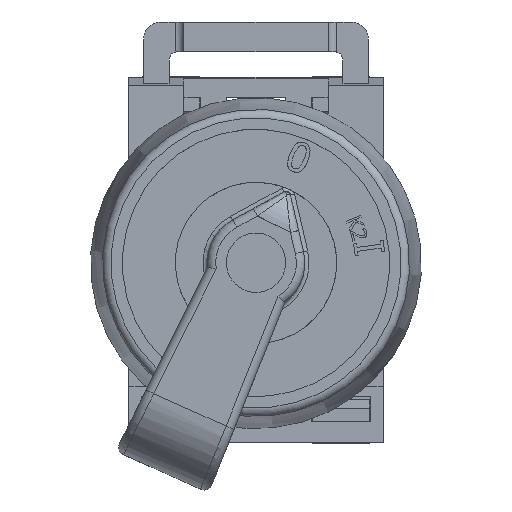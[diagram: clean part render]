
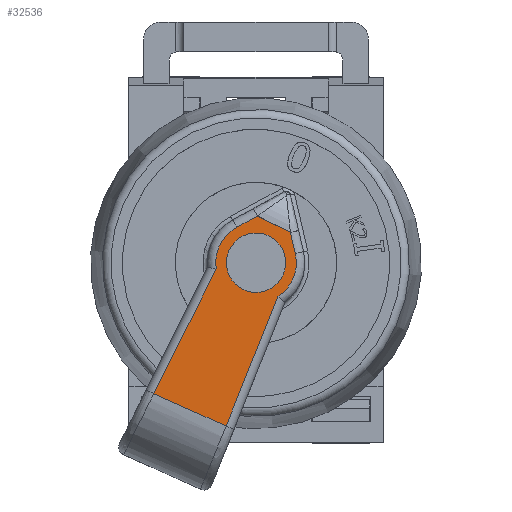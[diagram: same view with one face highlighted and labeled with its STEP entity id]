
A CAD part, top view. The second image highlights one B-rep face of the part: STEP entity #32536.
In plain terms, the highlighted planar face has unit normal (0, 0, 1).
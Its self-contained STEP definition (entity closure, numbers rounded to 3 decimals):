
#32225=CARTESIAN_POINT('',(42.563,61.36,102.869));
#32226=VERTEX_POINT('',#32225);
#32244=CARTESIAN_POINT('',(38.687,63.297,102.869));
#32245=VERTEX_POINT('',#32244);
#32253=CARTESIAN_POINT('',(38.687,63.297,102.869));
#32254=DIRECTION('',(0.895,-0.447,0.0));
#32255=VECTOR('',#32254,4.333);
#32256=LINE('',#32253,#32255);
#32257=EDGE_CURVE('',#32245,#32226,#32256,.T.);
#32449=CARTESIAN_POINT('',(43.141,58.868,102.869));
#32450=VERTEX_POINT('',#32449);
#32451=CARTESIAN_POINT('',(42.563,61.36,102.869));
#32452=DIRECTION('',(0.226,-0.974,0.0));
#32453=VECTOR('',#32452,2.558);
#32454=LINE('',#32451,#32453);
#32455=EDGE_CURVE('',#32226,#32450,#32454,.T.);
#32468=CARTESIAN_POINT('',(32.211,49.918,102.869));
#32469=DIRECTION('',(0.0,0.0,1.0));
#32470=DIRECTION('',(0.41,0.912,0.0));
#32471=AXIS2_PLACEMENT_3D('',#32468,#32469,#32470);
#32472=PLANE('',#32471);
#32473=ORIENTED_EDGE('',*,*,#32257,.F.);
#32474=CARTESIAN_POINT('',(36.242,61.966,102.869));
#32475=VERTEX_POINT('',#32474);
#32476=CARTESIAN_POINT('',(36.242,61.966,102.869));
#32477=DIRECTION('',(0.878,0.478,0.0));
#32478=VECTOR('',#32477,2.783);
#32479=LINE('',#32476,#32478);
#32480=EDGE_CURVE('',#32475,#32245,#32479,.T.);
#32481=ORIENTED_EDGE('',*,*,#32480,.F.);
#32482=CARTESIAN_POINT('',(33.819,57.075,102.869));
#32483=VERTEX_POINT('',#32482);
#32484=CARTESIAN_POINT('',(38.514,57.795,102.869));
#32485=DIRECTION('',(0.,0.,-1.0));
#32486=DIRECTION('',(-0.883,0.47,0.));
#32487=AXIS2_PLACEMENT_3D('',#32484,#32485,#32486);
#32488=CIRCLE('',#32487,4.75);
#32489=EDGE_CURVE('',#32483,#32475,#32488,.T.);
#32490=ORIENTED_EDGE('',*,*,#32489,.F.);
#32491=CARTESIAN_POINT('',(26.471,42.375,102.869));
#32492=VERTEX_POINT('',#32491);
#32493=CARTESIAN_POINT('',(26.471,42.375,102.869));
#32494=DIRECTION('',(0.447,0.895,0.));
#32495=VECTOR('',#32494,16.434);
#32496=LINE('',#32493,#32495);
#32497=EDGE_CURVE('',#32492,#32483,#32496,.T.);
#32498=ORIENTED_EDGE('',*,*,#32497,.F.);
#32499=CARTESIAN_POINT('',(34.988,38.55,102.869));
#32500=VERTEX_POINT('',#32499);
#32501=CARTESIAN_POINT('',(34.988,38.55,102.869));
#32502=DIRECTION('',(-0.912,0.41,0.0));
#32503=VECTOR('',#32502,9.336);
#32504=LINE('',#32501,#32503);
#32505=EDGE_CURVE('',#32500,#32492,#32504,.T.);
#32506=ORIENTED_EDGE('',*,*,#32505,.F.);
#32507=CARTESIAN_POINT('',(41.095,53.807,102.869));
#32508=VERTEX_POINT('',#32507);
#32509=CARTESIAN_POINT('',(41.095,53.807,102.869));
#32510=DIRECTION('',(-0.372,-0.928,0.));
#32511=VECTOR('',#32510,16.434);
#32512=LINE('',#32509,#32511);
#32513=EDGE_CURVE('',#32508,#32500,#32512,.T.);
#32514=ORIENTED_EDGE('',*,*,#32513,.F.);
#32515=CARTESIAN_POINT('',(38.514,57.795,102.869));
#32516=DIRECTION('',(0.,0.,-1.0));
#32517=DIRECTION('',(0.938,-0.348,0.));
#32518=AXIS2_PLACEMENT_3D('',#32515,#32516,#32517);
#32519=CIRCLE('',#32518,4.75);
#32520=EDGE_CURVE('',#32450,#32508,#32519,.T.);
#32521=ORIENTED_EDGE('',*,*,#32520,.F.);
#32522=ORIENTED_EDGE('',*,*,#32455,.F.);
#32523=EDGE_LOOP('',(#32473,#32481,#32490,#32498,#32506,#32514,#32521,#32522));
#32524=FACE_OUTER_BOUND('',#32523,.T.);
#32525=CARTESIAN_POINT('',(39.948,60.987,102.869));
#32526=VERTEX_POINT('',#32525);
#32527=CARTESIAN_POINT('',(38.514,57.795,102.869));
#32528=DIRECTION('',(0.,0.,-1.0));
#32529=DIRECTION('',(-0.41,-0.912,0.));
#32530=AXIS2_PLACEMENT_3D('',#32527,#32528,#32529);
#32531=CIRCLE('',#32530,3.5);
#32532=EDGE_CURVE('',#32526,#32526,#32531,.T.);
#32533=ORIENTED_EDGE('',*,*,#32532,.T.);
#32534=EDGE_LOOP('',(#32533));
#32535=FACE_BOUND('',#32534,.T.);
#32536=ADVANCED_FACE('',(#32524,#32535),#32472,.T.);
